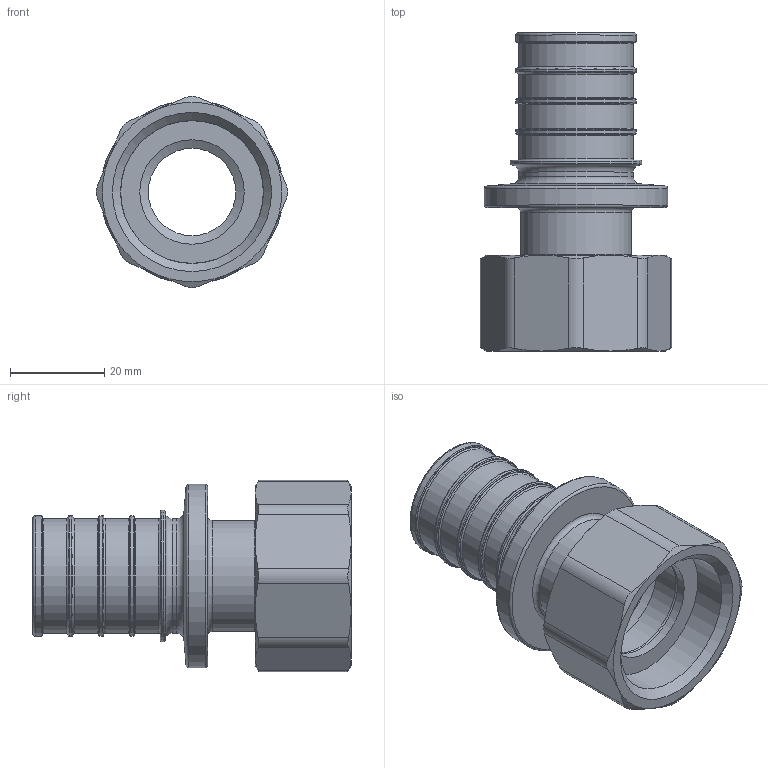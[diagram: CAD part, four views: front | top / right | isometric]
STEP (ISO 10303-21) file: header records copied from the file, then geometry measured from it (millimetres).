
FILE_DESCRIPTION(('STEP AP203'), '1');
FILE_NAME('ﾂﾐ.302612.021.000 ﾑﾁ - VTm.422.G.003206 ﾔ頸. - 裝', '2024-01-23T13:30:35', ('Boss'), (''), 'C3D Converter', 'C3D Toolkit', '');
FILE_SCHEMA(('CONFIG_CONTROL_DESIGN'));
Length unit declared in the file: millimetre
Products named in the file (5): ВР.302612.020.000  СБ; ВР.714651.013; ВР.758421.032; ВР.753612.004; ВР.305323.017
Assembly tree (4 placements, depth 2):
  ВР.302612.020.000  СБ
    ВР.714651.013
    ВР.758421.032
    ВР.753612.004
    ВР.305323.017
Bounding box: 40.47 x 67.43 x 40.47 mm (x, y, z)
Volume: 23733 mm3; surface area: 17880.1 mm2
Topology: 4 solids, 4 shells, 107 faces, 227 edges, 132 vertices
Faces by surface type: torus 30, cylinder 30, plane 28, cone 19
Full cylindrical faces by diameter (mm): 18.5 x1, 20 x1, 22.1 x2, 23.5 x1, 24.3 x5, 25.5 x4, 27.1 x1, 27.9 x1, 30.2 x2, 30.292 x1, 30.4 x1, 33.4 x1, 38.8 x1
Entity records: 4008 total; most frequent: CARTESIAN_POINT 1816, DIRECTION 418, ORIENTED_EDGE 296, AXIS2_PLACEMENT_3D 201, EDGE_LOOP 188, EDGE_CURVE 148, VERTEX_POINT 124, FACE_OUTER_BOUND 121
